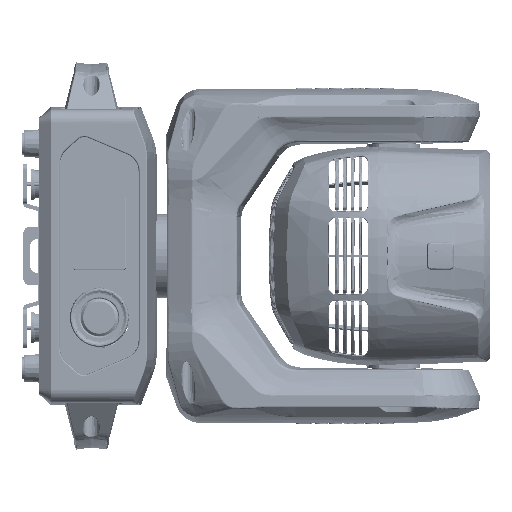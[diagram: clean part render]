
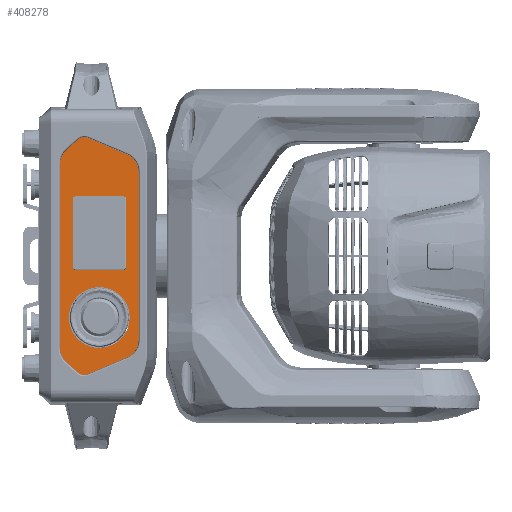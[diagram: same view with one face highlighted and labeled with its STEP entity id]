
A CAD part, front view. The second image highlights one B-rep face of the part: STEP entity #408278.
In plain terms, the highlighted planar face has unit normal (0, -1, 0).
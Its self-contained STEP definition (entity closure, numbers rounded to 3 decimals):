
#408070=CARTESIAN_POINT('',(-68.538,-93.25,0.));
#408071=DIRECTION('',(0.,1.,0.));
#408072=DIRECTION('',(0.,0.,1.));
#408073=AXIS2_PLACEMENT_3D('',#408070,#408071,#408072);
#408074=PLANE('',#408073);
#408075=CARTESIAN_POINT('',(-2.33,-93.25,62.835));
#408076=VERTEX_POINT('',#408075);
#408077=CARTESIAN_POINT('',(-2.33,-93.25,-62.835));
#408078=VERTEX_POINT('',#408077);
#408079=CARTESIAN_POINT('',(-2.33,-93.25,62.835));
#408080=DIRECTION('',(0.,0.,-1.));
#408081=VECTOR('',#408080,125.669);
#408082=LINE('',#408079,#408081);
#408083=EDGE_CURVE('',#408076,#408078,#408082,.T.);
#408084=ORIENTED_EDGE('',*,*,#408083,.F.);
#408085=CARTESIAN_POINT('',(-11.6,-93.25,76.831));
#408086=VERTEX_POINT('',#408085);
#408087=CARTESIAN_POINT('',(-17.53,-93.25,62.835));
#408088=DIRECTION('',(0.,-1.,0.));
#408089=DIRECTION('',(1.,0.,0.));
#408090=AXIS2_PLACEMENT_3D('',#408087,#408088,#408089);
#408091=CIRCLE('',#408090,15.2);
#408092=EDGE_CURVE('',#408076,#408086,#408091,.T.);
#408093=ORIENTED_EDGE('',*,*,#408092,.T.);
#408094=CARTESIAN_POINT('',(-40.931,-93.25,89.256));
#408095=VERTEX_POINT('',#408094);
#408096=CARTESIAN_POINT('',(-40.931,-93.25,89.256));
#408097=DIRECTION('',(0.921,0.,-0.39));
#408098=VECTOR('',#408097,31.854);
#408099=LINE('',#408096,#408098);
#408100=EDGE_CURVE('',#408095,#408086,#408099,.T.);
#408101=ORIENTED_EDGE('',*,*,#408100,.F.);
#408102=CARTESIAN_POINT('',(-49.364,-93.25,87.872));
#408103=VERTEX_POINT('',#408102);
#408104=CARTESIAN_POINT('',(-44.052,-93.25,81.89));
#408105=DIRECTION('',(0.,-1.,0.));
#408106=DIRECTION('',(0.39,0.,0.921));
#408107=AXIS2_PLACEMENT_3D('',#408104,#408105,#408106);
#408108=CIRCLE('',#408107,8.);
#408109=EDGE_CURVE('',#408095,#408103,#408108,.T.);
#408110=ORIENTED_EDGE('',*,*,#408109,.T.);
#408111=CARTESIAN_POINT('',(-58.088,-93.25,80.125));
#408112=VERTEX_POINT('',#408111);
#408113=CARTESIAN_POINT('',(-58.088,-93.25,80.125));
#408114=DIRECTION('',(0.748,0.,0.664));
#408115=VECTOR('',#408114,11.668);
#408116=LINE('',#408113,#408115);
#408117=EDGE_CURVE('',#408112,#408103,#408116,.T.);
#408118=ORIENTED_EDGE('',*,*,#408117,.F.);
#408119=CARTESIAN_POINT('',(-63.129,-93.25,68.908));
#408120=VERTEX_POINT('',#408119);
#408121=CARTESIAN_POINT('',(-48.129,-93.25,68.908));
#408122=DIRECTION('',(0.,-1.,0.));
#408123=DIRECTION('',(-0.664,0.,0.748));
#408124=AXIS2_PLACEMENT_3D('',#408121,#408122,#408123);
#408125=CIRCLE('',#408124,15.);
#408126=EDGE_CURVE('',#408112,#408120,#408125,.T.);
#408127=ORIENTED_EDGE('',*,*,#408126,.T.);
#408128=CARTESIAN_POINT('',(-63.129,-93.25,-68.908));
#408129=VERTEX_POINT('',#408128);
#408130=CARTESIAN_POINT('',(-63.129,-93.25,-68.908));
#408131=DIRECTION('',(0.,0.,1.));
#408132=VECTOR('',#408131,137.816);
#408133=LINE('',#408130,#408132);
#408134=EDGE_CURVE('',#408129,#408120,#408133,.T.);
#408135=ORIENTED_EDGE('',*,*,#408134,.F.);
#408136=CARTESIAN_POINT('',(-58.088,-93.25,-80.125));
#408137=VERTEX_POINT('',#408136);
#408138=CARTESIAN_POINT('',(-48.129,-93.25,-68.908));
#408139=DIRECTION('',(0.,-1.,-0.));
#408140=DIRECTION('',(-1.,0.,0.));
#408141=AXIS2_PLACEMENT_3D('',#408138,#408139,#408140);
#408142=CIRCLE('',#408141,15.);
#408143=EDGE_CURVE('',#408129,#408137,#408142,.T.);
#408144=ORIENTED_EDGE('',*,*,#408143,.T.);
#408145=CARTESIAN_POINT('',(-49.364,-93.25,-87.872));
#408146=VERTEX_POINT('',#408145);
#408147=CARTESIAN_POINT('',(-49.364,-93.25,-87.872));
#408148=DIRECTION('',(-0.748,0.,0.664));
#408149=VECTOR('',#408148,11.668);
#408150=LINE('',#408147,#408149);
#408151=EDGE_CURVE('',#408146,#408137,#408150,.T.);
#408152=ORIENTED_EDGE('',*,*,#408151,.F.);
#408153=CARTESIAN_POINT('',(-44.052,-93.25,-89.89));
#408154=VERTEX_POINT('',#408153);
#408155=CARTESIAN_POINT('',(-44.052,-93.25,-81.89));
#408156=DIRECTION('',(0.,-1.,-0.));
#408157=DIRECTION('',(-0.664,0.,-0.748));
#408158=AXIS2_PLACEMENT_3D('',#408155,#408156,#408157);
#408159=CIRCLE('',#408158,8.);
#408160=EDGE_CURVE('',#408146,#408154,#408159,.T.);
#408161=ORIENTED_EDGE('',*,*,#408160,.T.);
#408162=CARTESIAN_POINT('',(-40.931,-93.25,-89.256));
#408163=VERTEX_POINT('',#408162);
#408164=CARTESIAN_POINT('',(-44.052,-93.25,-81.89));
#408165=DIRECTION('',(0.,-1.,-0.));
#408166=DIRECTION('',(-0.664,0.,-0.748));
#408167=AXIS2_PLACEMENT_3D('',#408164,#408165,#408166);
#408168=CIRCLE('',#408167,8.);
#408169=EDGE_CURVE('',#408154,#408163,#408168,.T.);
#408170=ORIENTED_EDGE('',*,*,#408169,.T.);
#408171=CARTESIAN_POINT('',(-11.6,-93.25,-76.831));
#408172=VERTEX_POINT('',#408171);
#408173=CARTESIAN_POINT('',(-11.6,-93.25,-76.831));
#408174=DIRECTION('',(-0.921,0.,-0.39));
#408175=VECTOR('',#408174,31.854);
#408176=LINE('',#408173,#408175);
#408177=EDGE_CURVE('',#408172,#408163,#408176,.T.);
#408178=ORIENTED_EDGE('',*,*,#408177,.F.);
#408179=CARTESIAN_POINT('',(-17.53,-93.25,-62.835));
#408180=DIRECTION('',(0.,-1.,0.));
#408181=DIRECTION('',(0.39,0.,-0.921));
#408182=AXIS2_PLACEMENT_3D('',#408179,#408180,#408181);
#408183=CIRCLE('',#408182,15.2);
#408184=EDGE_CURVE('',#408172,#408078,#408183,.T.);
#408185=ORIENTED_EDGE('',*,*,#408184,.T.);
#408186=EDGE_LOOP('',(#408084,#408093,#408101,#408110,#408118,#408127,#408135,#408144,#408152,#408161,#408170,#408178,#408185));
#408187=FACE_BOUND('',#408186,.T.);
#408188=CARTESIAN_POINT('',(-32.738,-93.25,-23.25));
#408189=VERTEX_POINT('',#408188);
#408190=CARTESIAN_POINT('',(-32.738,-93.25,-68.75));
#408191=VERTEX_POINT('',#408190);
#408192=CARTESIAN_POINT('',(-32.738,-93.25,-46.));
#408193=DIRECTION('',(0.,1.,0.));
#408194=DIRECTION('',(0.,-0.,1.));
#408195=AXIS2_PLACEMENT_3D('',#408192,#408193,#408194);
#408196=CIRCLE('',#408195,22.75);
#408197=EDGE_CURVE('',#408189,#408191,#408196,.T.);
#408198=ORIENTED_EDGE('',*,*,#408197,.T.);
#408199=CARTESIAN_POINT('',(-32.738,-93.25,-46.));
#408200=DIRECTION('',(0.,1.,0.));
#408201=DIRECTION('',(0.,0.,-1.));
#408202=AXIS2_PLACEMENT_3D('',#408199,#408200,#408201);
#408203=CIRCLE('',#408202,22.75);
#408204=EDGE_CURVE('',#408191,#408189,#408203,.T.);
#408205=ORIENTED_EDGE('',*,*,#408204,.T.);
#408206=EDGE_LOOP('',(#408198,#408205));
#408207=FACE_BOUND('',#408206,.T.);
#408208=CARTESIAN_POINT('',(-50.738,-93.25,-10.5));
#408209=VERTEX_POINT('',#408208);
#408210=CARTESIAN_POINT('',(-52.738,-93.25,-8.5));
#408211=VERTEX_POINT('',#408210);
#408212=CARTESIAN_POINT('',(-50.738,-93.25,-8.5));
#408213=DIRECTION('',(0.,1.,0.));
#408214=DIRECTION('',(0.,0.,-1.));
#408215=AXIS2_PLACEMENT_3D('',#408212,#408213,#408214);
#408216=CIRCLE('',#408215,2.);
#408217=EDGE_CURVE('',#408209,#408211,#408216,.T.);
#408218=ORIENTED_EDGE('',*,*,#408217,.T.);
#408219=CARTESIAN_POINT('',(-52.738,-93.25,42.5));
#408220=VERTEX_POINT('',#408219);
#408221=CARTESIAN_POINT('',(-52.738,-93.25,-8.5));
#408222=DIRECTION('',(0.,0.,1.));
#408223=VECTOR('',#408222,51.);
#408224=LINE('',#408221,#408223);
#408225=EDGE_CURVE('',#408211,#408220,#408224,.T.);
#408226=ORIENTED_EDGE('',*,*,#408225,.T.);
#408227=CARTESIAN_POINT('',(-50.738,-93.25,44.5));
#408228=VERTEX_POINT('',#408227);
#408229=CARTESIAN_POINT('',(-50.738,-93.25,42.5));
#408230=DIRECTION('',(0.,1.,0.));
#408231=DIRECTION('',(-1.,0.,0.));
#408232=AXIS2_PLACEMENT_3D('',#408229,#408230,#408231);
#408233=CIRCLE('',#408232,2.);
#408234=EDGE_CURVE('',#408220,#408228,#408233,.T.);
#408235=ORIENTED_EDGE('',*,*,#408234,.T.);
#408236=CARTESIAN_POINT('',(-14.738,-93.25,44.5));
#408237=VERTEX_POINT('',#408236);
#408238=CARTESIAN_POINT('',(-50.738,-93.25,44.5));
#408239=DIRECTION('',(1.,0.,-0.));
#408240=VECTOR('',#408239,36.);
#408241=LINE('',#408238,#408240);
#408242=EDGE_CURVE('',#408228,#408237,#408241,.T.);
#408243=ORIENTED_EDGE('',*,*,#408242,.T.);
#408244=CARTESIAN_POINT('',(-12.738,-93.25,42.5));
#408245=VERTEX_POINT('',#408244);
#408246=CARTESIAN_POINT('',(-14.738,-93.25,42.5));
#408247=DIRECTION('',(0.,1.,0.));
#408248=DIRECTION('',(0.,-0.,1.));
#408249=AXIS2_PLACEMENT_3D('',#408246,#408247,#408248);
#408250=CIRCLE('',#408249,2.);
#408251=EDGE_CURVE('',#408237,#408245,#408250,.T.);
#408252=ORIENTED_EDGE('',*,*,#408251,.T.);
#408253=CARTESIAN_POINT('',(-12.738,-93.25,-8.5));
#408254=VERTEX_POINT('',#408253);
#408255=CARTESIAN_POINT('',(-12.738,-93.25,42.5));
#408256=DIRECTION('',(0.,0.,-1.));
#408257=VECTOR('',#408256,51.);
#408258=LINE('',#408255,#408257);
#408259=EDGE_CURVE('',#408245,#408254,#408258,.T.);
#408260=ORIENTED_EDGE('',*,*,#408259,.T.);
#408261=CARTESIAN_POINT('',(-14.738,-93.25,-10.5));
#408262=VERTEX_POINT('',#408261);
#408263=CARTESIAN_POINT('',(-14.738,-93.25,-8.5));
#408264=DIRECTION('',(-0.,1.,0.));
#408265=DIRECTION('',(1.,0.,0.));
#408266=AXIS2_PLACEMENT_3D('',#408263,#408264,#408265);
#408267=CIRCLE('',#408266,2.);
#408268=EDGE_CURVE('',#408254,#408262,#408267,.T.);
#408269=ORIENTED_EDGE('',*,*,#408268,.T.);
#408270=CARTESIAN_POINT('',(-14.738,-93.25,-10.5));
#408271=DIRECTION('',(-1.,0.,0.));
#408272=VECTOR('',#408271,36.);
#408273=LINE('',#408270,#408272);
#408274=EDGE_CURVE('',#408262,#408209,#408273,.T.);
#408275=ORIENTED_EDGE('',*,*,#408274,.T.);
#408276=EDGE_LOOP('',(#408218,#408226,#408235,#408243,#408252,#408260,#408269,#408275));
#408277=FACE_BOUND('',#408276,.T.);
#408278=ADVANCED_FACE('',(#408187,#408207,#408277),#408074,.F.);
